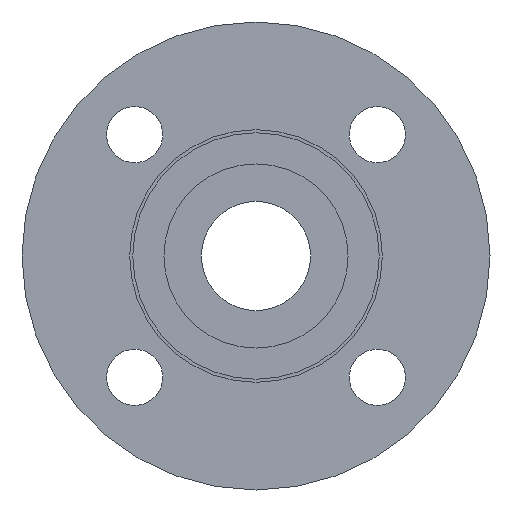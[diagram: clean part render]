
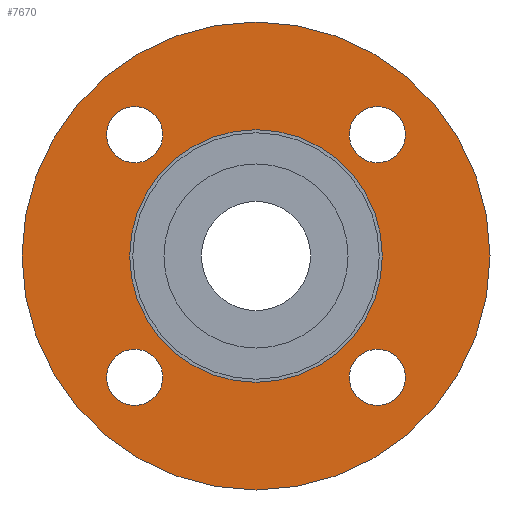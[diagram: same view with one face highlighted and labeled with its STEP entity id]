
A CAD part, left-side view. The second image highlights one B-rep face of the part: STEP entity #7670.
In plain terms, the highlighted planar face has unit normal (-1, 0, 0).
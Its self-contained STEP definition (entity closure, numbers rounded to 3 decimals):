
#7670=ADVANCED_FACE('',(#13839,#13841,#13843,#13845,#13847,#13849),#13851,.T.);
#13839=FACE_BOUND('',#13840,.T.);
#13840=EDGE_LOOP('',(#19030,#19031));
#13841=FACE_BOUND('',#13842,.T.);
#13842=EDGE_LOOP('',(#19032));
#13843=FACE_BOUND('',#13844,.T.);
#13844=EDGE_LOOP('',(#19033));
#13845=FACE_BOUND('',#13846,.T.);
#13846=EDGE_LOOP('',(#19034));
#13847=FACE_BOUND('',#13848,.T.);
#13848=EDGE_LOOP('',(#19035,#19036));
#13849=FACE_BOUND('',#13850,.T.);
#13850=EDGE_LOOP('',(#19037));
#13851=PLANE('',#13852);
#13852=AXIS2_PLACEMENT_3D('',#13853,#13854,#13855);
#13853=CARTESIAN_POINT('',(15128.951,2888.029,0.));
#13854=DIRECTION('',(-1.,0.,0.));
#13855=DIRECTION('',(0.,0.,1.));
#19030=ORIENTED_EDGE('',*,*,#21617,.F.);
#19031=ORIENTED_EDGE('',*,*,#21618,.F.);
#19032=ORIENTED_EDGE('',*,*,#21604,.T.);
#19033=ORIENTED_EDGE('',*,*,#21606,.T.);
#19034=ORIENTED_EDGE('',*,*,#21610,.T.);
#19035=ORIENTED_EDGE('',*,*,#21614,.T.);
#19036=ORIENTED_EDGE('',*,*,#21613,.T.);
#19037=ORIENTED_EDGE('',*,*,#21600,.T.);
#21600=EDGE_CURVE('',#25742,#25742,#25743,.T.);
#21604=EDGE_CURVE('',#25750,#25750,#25751,.T.);
#21606=EDGE_CURVE('',#25754,#25754,#25755,.T.);
#21610=EDGE_CURVE('',#25762,#25762,#25763,.T.);
#21613=EDGE_CURVE('',#25768,#25769,#25770,.T.);
#21614=EDGE_CURVE('',#25769,#25768,#25771,.T.);
#21617=EDGE_CURVE('',#25776,#25777,#25778,.T.);
#21618=EDGE_CURVE('',#25777,#25776,#25779,.T.);
#25742=VERTEX_POINT('',#34842);
#25743=CIRCLE('',#34843,9.);
#25750=VERTEX_POINT('',#34862);
#25751=CIRCLE('',#34863,9.);
#25754=VERTEX_POINT('',#34872);
#25755=CIRCLE('',#34873,9.);
#25762=VERTEX_POINT('',#34892);
#25763=CIRCLE('',#34893,9.);
#25768=VERTEX_POINT('',#34907);
#25769=VERTEX_POINT('',#34908);
#25770=CIRCLE('',#34909,40.5);
#25771=CIRCLE('',#34913,40.5);
#25776=VERTEX_POINT('',#34927);
#25777=VERTEX_POINT('',#34928);
#25778=CIRCLE('',#34929,75.);
#25779=CIRCLE('',#34933,75.);
#34842=CARTESIAN_POINT('',(15128.951,2765.138,-38.891));
#34843=AXIS2_PLACEMENT_3D('',#34844,#34845,#34846);
#34844=CARTESIAN_POINT('',(15128.951,2774.138,-38.891));
#34845=DIRECTION('',(1.,0.,0.));
#34846=DIRECTION('',(0.,-1.,0.));
#34862=CARTESIAN_POINT('',(15128.951,2842.92,-38.891));
#34863=AXIS2_PLACEMENT_3D('',#34864,#34865,#34866);
#34864=CARTESIAN_POINT('',(15128.951,2851.92,-38.891));
#34865=DIRECTION('',(1.,0.,0.));
#34866=DIRECTION('',(0.,-1.,0.));
#34872=CARTESIAN_POINT('',(15128.951,2842.92,38.891));
#34873=AXIS2_PLACEMENT_3D('',#34874,#34875,#34876);
#34874=CARTESIAN_POINT('',(15128.951,2851.92,38.891));
#34875=DIRECTION('',(1.,0.,0.));
#34876=DIRECTION('',(0.,-1.,0.));
#34892=CARTESIAN_POINT('',(15128.951,2765.138,38.891));
#34893=AXIS2_PLACEMENT_3D('',#34894,#34895,#34896);
#34894=CARTESIAN_POINT('',(15128.951,2774.138,38.891));
#34895=DIRECTION('',(1.,0.,0.));
#34896=DIRECTION('',(0.,-1.,0.));
#34907=CARTESIAN_POINT('',(15128.951,2772.529,0.));
#34908=CARTESIAN_POINT('',(15128.951,2853.529,0.));
#34909=AXIS2_PLACEMENT_3D('',#34910,#34911,#34912);
#34910=CARTESIAN_POINT('',(15128.951,2813.029,0.));
#34911=DIRECTION('',(1.,0.,0.));
#34912=DIRECTION('',(0.,-1.,0.));
#34913=AXIS2_PLACEMENT_3D('',#34914,#34915,#34916);
#34914=CARTESIAN_POINT('',(15128.951,2813.029,0.));
#34915=DIRECTION('',(1.,0.,0.));
#34916=DIRECTION('',(0.,1.,0.));
#34927=CARTESIAN_POINT('',(15128.951,2738.029,0.));
#34928=CARTESIAN_POINT('',(15128.951,2888.029,0.));
#34929=AXIS2_PLACEMENT_3D('',#34930,#34931,#34932);
#34930=CARTESIAN_POINT('',(15128.951,2813.029,0.));
#34931=DIRECTION('',(1.,0.,0.));
#34932=DIRECTION('',(0.,-1.,0.));
#34933=AXIS2_PLACEMENT_3D('',#34934,#34935,#34936);
#34934=CARTESIAN_POINT('',(15128.951,2813.029,0.));
#34935=DIRECTION('',(1.,0.,0.));
#34936=DIRECTION('',(0.,1.,0.));
